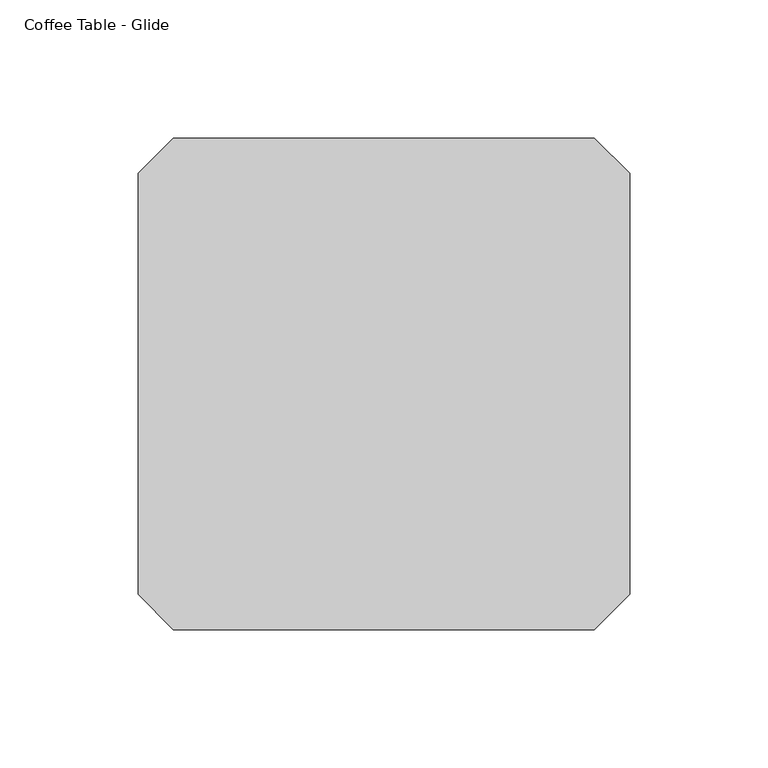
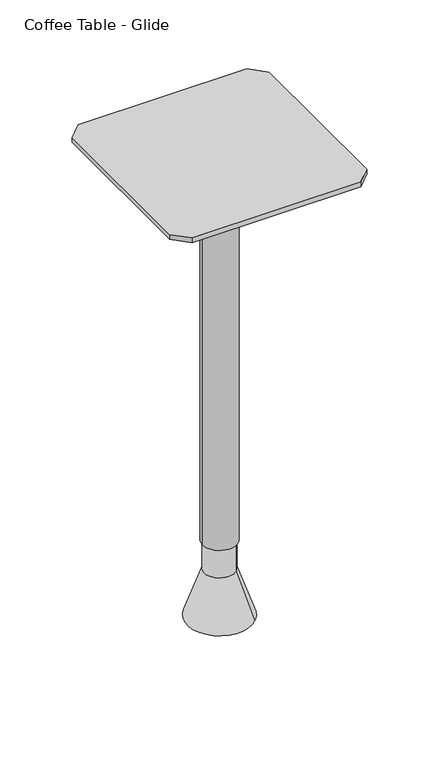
"""IFC4 building model written with IfcOpenShell, lengths in millimetres: furniture geometry, Steelcase - Groupwork - Table Leg - Coffee Table : Coffee Table - Glide."""

from ifc_helpers import new_model, si_unit, point, frame, frame_2d, origin, place, context, project, spatial, polyline, circle_curve, trimmed, segment, composite_curve, outline, extrude, source, transform, mapped, element, save
from ifc_brep_helpers import plane_surface, cylinder_surface, revolved_surface, advanced_brep


def coffee_table_glide_f4786f68(model_context):
    return source(origin(), model_context, "Body", "SolidModel", [
        extrude(outline(polyline([(88.8999907, -92.0423469), (76.2000028, -104.7423348), (-76.2000028, -104.7423348), (-88.9000032, -92.0423469), (-88.9000032, 60.3576588), (-76.2000028, 73.0576592), (76.2000028, 73.0576592), (88.8999907, 60.4556951), (88.8999907, -92.0423469)])), frame((0.0, 0.0, 434.9139814), z_axis=(0.0, 0.0, 1.0), x_axis=(1.0, 0.0, 0.0)), (0.0, 0.0, 1.0), 4.5060186),
        advanced_brep(
        [(9.6968599, -25.4901858, 71.9077843), (-9.6968599, -6.096466, 71.9077843), (0.0, -15.7933259, 71.9077843), (9.6968599, -25.4901858, 44.5081099), (-9.6968599, -6.096466, 44.5081099), (20.454658, -36.2479839, 0.0), (-20.454658, 4.6613321, 0.0), (0.0, -15.7933259, 0.0)],
        [
            (0, 1, circle_curve(frame((0.0, -15.7933259, 71.9077843), z_axis=(0.0, 0.0, 1.0), x_axis=(-0.7071067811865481, 0.707106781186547, 0.0)), 13.7134307)),
            (1, 2),
            (2, 0),
            (1, 0, circle_curve(frame((0.0, -15.7933259, 71.9077843), z_axis=(0.0, 0.0, 1.0), x_axis=(-0.7071067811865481, 0.707106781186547, 0.0)), 13.7134307)),
            (3, 4, circle_curve(frame((0.0, -15.7933259, 44.5081099), z_axis=(0.0, 0.0, 1.0), x_axis=(-0.7071067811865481, 0.707106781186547, 0.0)), 13.7134307)),
            (4, 1),
            (0, 3),
            (4, 3, circle_curve(frame((0.0, -15.7933259, 44.5081099), z_axis=(0.0, 0.0, 1.0), x_axis=(-0.7071067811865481, 0.707106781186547, 0.0)), 13.7134307)),
            (5, 6, circle_curve(frame((0.0, -15.7933259, 0.0), z_axis=(0.0, 0.0, 1.0), x_axis=(-0.7071067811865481, 0.707106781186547, 0.0)), 28.9272548)),
            (6, 4),
            (3, 5),
            (6, 5, circle_curve(frame((0.0, -15.7933259, 0.0), z_axis=(0.0, 0.0, 1.0), x_axis=(-0.7071067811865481, 0.707106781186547, 0.0)), 28.9272548)),
            (7, 6),
            (5, 7),
        ],
        [
            plane_surface(frame((0.0, -15.7933259, 71.9077843), z_axis=(0.0, 0.0, 1.0000000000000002), x_axis=(-0.7071067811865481, 0.707106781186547, 0.0))),
            cylinder_surface(frame((0.0, -15.7933259, 71.9077843), z_axis=(0.0, 0.0, -1.0), x_axis=(-0.7071067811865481, 0.707106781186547, 0.0)), 13.7134307),
            revolved_surface(polyline([(-9.6968599, -6.096466, 44.5081099), (-20.454658, 4.6613321, 0.0)]), (0.0, -15.7933259, 71.9077843), (0.0, 0.0, -1.0)),
            plane_surface(frame((0.0, -15.7933259, 0.0), z_axis=(0.0, 0.0, -1.0000000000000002), x_axis=(-0.7071067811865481, 0.707106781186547, 0.0))),
        ],
        [
            (0, [[1, 2, 3]]),
            (0, [[4, -3, -2]]),
            (1, [[5, 6, -1, 7]]),
            (1, [[8, -7, -4, -6]]),
            (2, [[9, 10, -5, 11]]),
            (2, [[12, -11, -8, -10]]),
            (3, [[13, -9, 14]]),
            (3, [[-14, -12, -13]]),
        ],
    ),
        extrude(outline(composite_curve([segment(trimmed(circle_curve(frame_2d((0.0, -15.7933259)), 15.24), [point((-15.24, -15.7933259))], [point((15.24, -15.7933259))], False, "CARTESIAN"), True, "CONTINUOUS"), segment(trimmed(circle_curve(frame_2d((0.0, -15.7933259)), 15.24), [point((15.24, -15.7933259))], [point((-15.24, -15.7933259))], False, "CARTESIAN"), True, "CONTINUOUS")], self_intersect=False), holes=[composite_curve([segment(trimmed(circle_curve(frame_2d((0.0, -15.7933259)), 13.7134307), [point((-13.7134307, -15.7933259))], [point((13.7134307, -15.7933259))], True, "CARTESIAN"), True, "CONTINUOUS"), segment(trimmed(circle_curve(frame_2d((0.0, -15.7933259)), 13.7134307), [point((13.7134307, -15.7933259))], [point((-13.7134307, -15.7933259))], True, "CARTESIAN"), True, "CONTINUOUS")], self_intersect=False)]), frame((0.0, 0.0, 71.6852125), z_axis=(0.0, 0.0, 1.0), x_axis=(1.0, 0.0, 0.0)), (0.0, 0.0, 1.0), 365.4487875),
    ])


if __name__ == "__main__":
    model = new_model("IFC4")
    model_context = context("Model", 3, world=origin())
    ifc_project = project(units=[si_unit("LENGTHUNIT", "METRE", prefix="MILLI")], contexts=[model_context])
    site = spatial("IfcSite", under=ifc_project)
    building = spatial("IfcBuilding", under=site)
    placement = place(None, origin())
    coffee_table_glide_shape = coffee_table_glide_f4786f68(model_context)
    element("IfcFurniture", 1, ObjectType="Steelcase - Groupwork - Table Leg - Coffee Table : Coffee Table - Glide", at=placement, inside=building, context=model_context, shape_type="MappedRepresentation", body=[
        mapped(coffee_table_glide_shape, transform((0.0, 0.0, 0.0), x_axis=(1.0, 0.0, 0.0), y_axis=(0.0, 1.0, 0.0), z_axis=(0.0, 0.0, 1.0))),
    ])
    save(model, "model.ifc")
